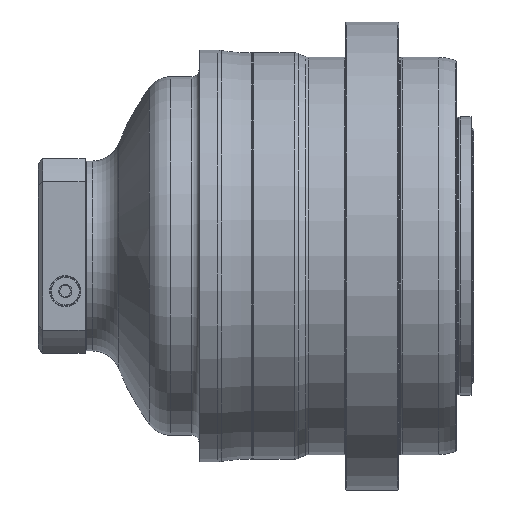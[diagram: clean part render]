
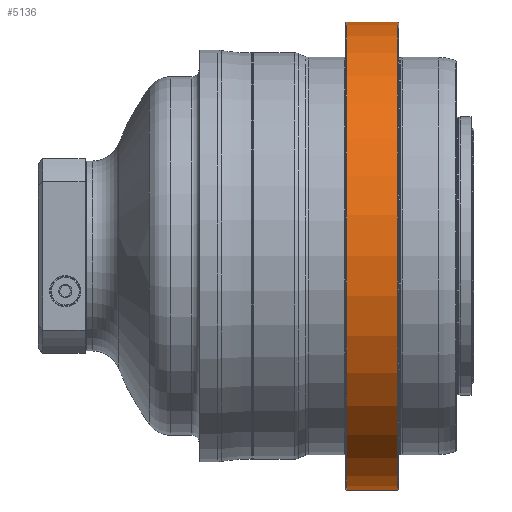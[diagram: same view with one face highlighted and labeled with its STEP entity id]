
A CAD part, top view. The second image highlights one B-rep face of the part: STEP entity #5136.
In plain terms, the highlighted cylindrical face has radius 265 mm (diameter 530 mm), a partial arc.
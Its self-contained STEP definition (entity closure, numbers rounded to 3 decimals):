
#1746=CARTESIAN_POINT('',(-59.,0.,0.));
#1747=DIRECTION('',(-1.,0.,0.));
#1748=DIRECTION('',(0.,-1.,0.));
#1749=AXIS2_PLACEMENT_3D('',#1746,#1747,#1748);
#1771=DIRECTION('',(-1.,0.,0.));
#1772=VECTOR('',#1771,58.);
#1773=CARTESIAN_POINT('',(-1.,-265.,0.));
#1774=LINE('',#1773,#1772);
#1775=DIRECTION('',(-1.,0.,0.));
#1776=VECTOR('',#1775,58.);
#1777=CARTESIAN_POINT('',(-1.,265.,0.));
#1778=LINE('',#1777,#1776);
#1779=CARTESIAN_POINT('',(-1.,0.,0.));
#1780=DIRECTION('',(-1.,0.,0.));
#1781=DIRECTION('',(0.,-1.,0.));
#1782=AXIS2_PLACEMENT_3D('',#1779,#1780,#1781);
#2049=CARTESIAN_POINT('',(-1.,-265.,0.));
#2050=CARTESIAN_POINT('',(-1.,265.,0.));
#2051=VERTEX_POINT('',#2049);
#2052=VERTEX_POINT('',#2050);
#2061=CARTESIAN_POINT('',(-59.,-265.,0.));
#2062=CARTESIAN_POINT('',(-59.,265.,0.));
#2063=VERTEX_POINT('',#2061);
#2064=VERTEX_POINT('',#2062);
#5124=CARTESIAN_POINT('',(-176.5,0.,0.));
#5125=DIRECTION('',(1.,0.,0.));
#5126=DIRECTION('',(0.,-1.,0.));
#5127=AXIS2_PLACEMENT_3D('',#5124,#5125,#5126);
#5128=CYLINDRICAL_SURFACE('',#5127,265.);
#5129=ORIENTED_EDGE('',*,*,#5089,.T.);
#5130=ORIENTED_EDGE('',*,*,#5119,.F.);
#5132=ORIENTED_EDGE('',*,*,#5131,.F.);
#5133=ORIENTED_EDGE('',*,*,#5115,.T.);
#5134=EDGE_LOOP('',(#5129,#5130,#5132,#5133));
#5135=FACE_OUTER_BOUND('',#5134,.F.);
#5136=ADVANCED_FACE('',(#5135),#5128,.T.);
#1750=CIRCLE('',#1749,265.);
#1783=CIRCLE('',#1782,265.);
#5089=EDGE_CURVE('',#2063,#2064,#1750,.T.);
#5115=EDGE_CURVE('',#2051,#2063,#1774,.T.);
#5119=EDGE_CURVE('',#2052,#2064,#1778,.T.);
#5131=EDGE_CURVE('',#2051,#2052,#1783,.T.);
